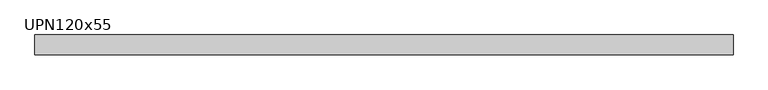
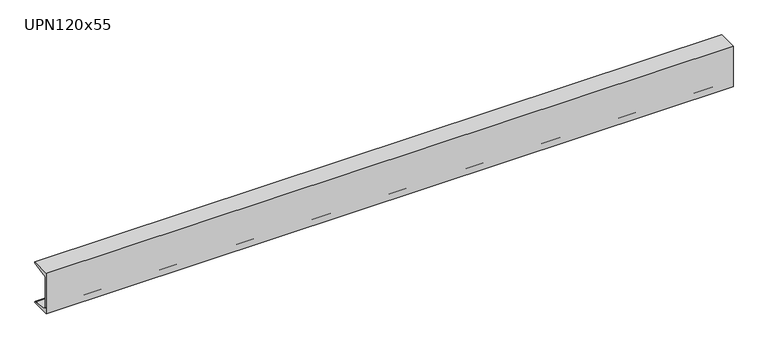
"""IFC4 building model written with IfcOpenShell, lengths in millimetres: beam geometry, M_MC Shapes : UPN120x55."""

from ifc_helpers import new_model, si_unit, point, frame, frame_2d, origin, place, context, project, spatial, polyline, circle_curve, trimmed, segment, composite_curve, outline, extrude, source, transform, mapped, element, save


def upn120x55_efc8f615(model_context):
    return source(origin(), model_context, "Body", "SweptSolid", [
        extrude(outline(composite_curve([segment(polyline([(-10.9, 60.0), (44.1, 60.0), (44.1, 59.0253247)]), True, "CONTINUOUS"), segment(trimmed(circle_curve(frame_2d((40.15, 59.0253247)), 3.95), [point((44.1, 59.0253247))], [point((40.7993773, 55.1290689))], False, "CARTESIAN"), True, "CONTINUOUS"), segment(polyline([(40.7993773, 55.1290689), (0.2512455, 48.3710335)]), True, "CONTINUOUS"), segment(trimmed(circle_curve(frame_2d((1.55, 40.5785219)), 7.9), [point((0.2512455, 48.3710335))], [point((-6.35, 40.5785219))], True, "CARTESIAN"), True, "CONTINUOUS"), segment(polyline([(-6.35, 40.5785219), (-6.35, -40.5785219)]), True, "CONTINUOUS"), segment(trimmed(circle_curve(frame_2d((1.55, -40.5785219)), 7.9), [point((-6.35, -40.5785219))], [point((0.2512455, -48.3710335))], True, "CARTESIAN"), True, "CONTINUOUS"), segment(polyline([(0.2512455, -48.3710335), (40.7993773, -55.1290689)]), True, "CONTINUOUS"), segment(trimmed(circle_curve(frame_2d((40.15, -59.0253247)), 3.95), [point((40.7993773, -55.1290689))], [point((44.1, -59.0253247))], False, "CARTESIAN"), True, "CONTINUOUS"), segment(polyline([(44.1, -59.0253247), (44.1, -60.0), (-10.9, -60.0), (-10.9, 60.0)]), True, "CONTINUOUS")], self_intersect=False)), frame((-958.9, 0.0, 0.0), z_axis=(1.0, 0.0, 0.0), x_axis=(0.0, 1.0, 0.0)), (0.0, 0.0, 1.0), 1917.8),
    ])


if __name__ == "__main__":
    model = new_model("IFC4")
    model_context = context("Model", 3, world=origin())
    ifc_project = project(units=[si_unit("LENGTHUNIT", "METRE", prefix="MILLI")], contexts=[model_context])
    site = spatial("IfcSite", under=ifc_project)
    building = spatial("IfcBuilding", under=site)
    placement = place(None, origin())
    upn120x55_shape = upn120x55_efc8f615(model_context)
    element("IfcBeam", 1, ObjectType="M_MC Shapes : UPN120x55", at=placement, inside=building, context=model_context, shape_type="MappedRepresentation", body=[
        mapped(upn120x55_shape, transform((0.0, 0.0, 0.0), x_axis=(1.0, 0.0, 0.0), y_axis=(0.0, 1.0, 0.0), z_axis=(0.0, 0.0, 1.0))),
    ])
    save(model, "model.ifc")
